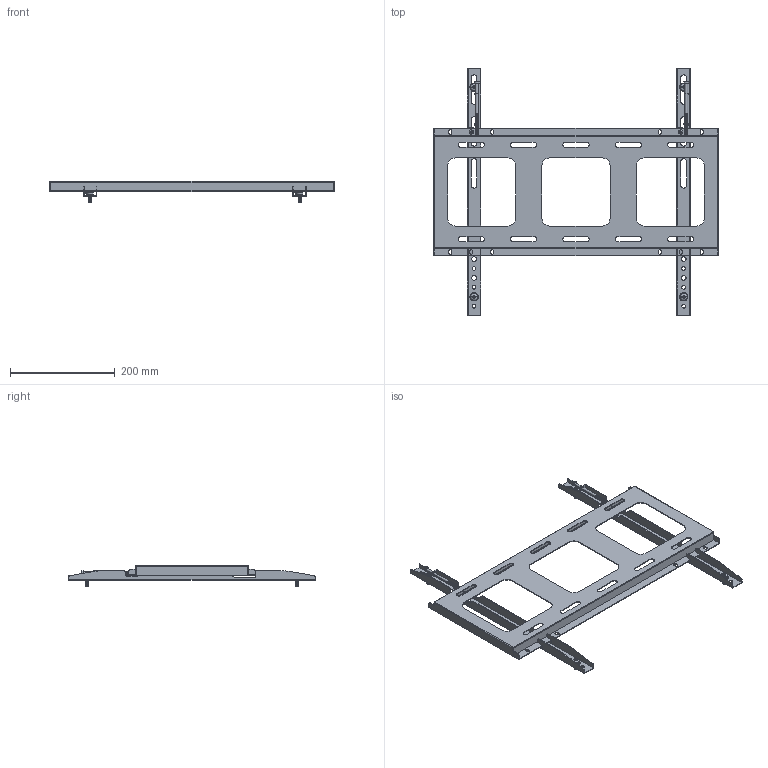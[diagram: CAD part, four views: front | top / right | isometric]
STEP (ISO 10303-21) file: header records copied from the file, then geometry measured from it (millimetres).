
FILE_DESCRIPTION((''),'2;1');
FILE_NAME('55_WALL_HANGING_ASM_12_ASM_4_ASM','2025-02-19T',('As11153'),(''),'CREO PARAMETRIC BY PTC INC, 2015080','CREO PARAMETRIC BY PTC INC, 2015080','');
FILE_SCHEMA(('AUTOMOTIVE_DESIGN { 1 0 10303 214 1 1 1 1 }'));
Length unit declared in the file: millimetre
Products named in the file (6): S_55_WALL_HANGING_VERTICAL_9_4; S_55_WALL_HANGING_TRANSVERSE_10; SCREW_M5X100_1_1_1_2_4; S_SCR_M4X10_R7X3-P_SPW_1_4; SCR_M6X16_B-P_01_1_4; 55_WALL_HANGING_ASM_12_ASM_4_ASM
Assembly tree (11 placements, depth 2):
  55_WALL_HANGING_ASM_12_ASM_4_ASM
    S_55_WALL_HANGING_VERTICAL_9_4  x2
    S_55_WALL_HANGING_TRANSVERSE_10
    SCREW_M5X100_1_1_1_2_4  x2
    S_SCR_M4X10_R7X3-P_SPW_1_4  x2
    SCR_M6X16_B-P_01_1_4  x4
Bounding box: 543 x 470 x 40.9 mm (x, y, z)
Volume: 233593.6 mm3; surface area: 324620 mm2
Topology: 11 solids, 19 shells, 1334 faces, 3752 edges, 2472 vertices
Faces by surface type: cylinder 632, plane 442, bspline 176, torus 52, cone 24, revolution 8
Entity records: 44952 total; most frequent: CARTESIAN_POINT 24813, ORIENTED_EDGE 3976, DIRECTION 3118, EDGE_CURVE 1990, VERTEX_POINT 1301, AXIS2_PLACEMENT_3D 1052, VECTOR 1012, LINE 1012
